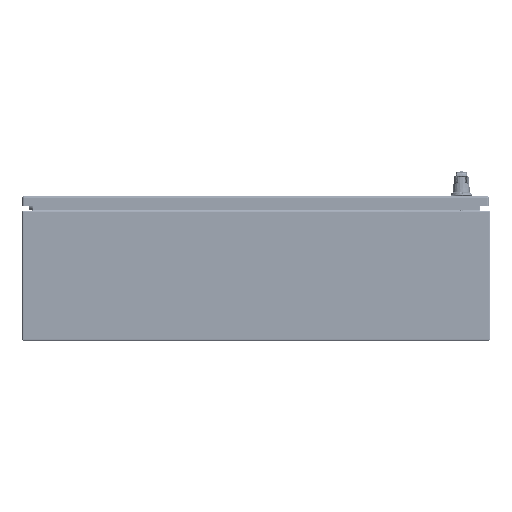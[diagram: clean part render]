
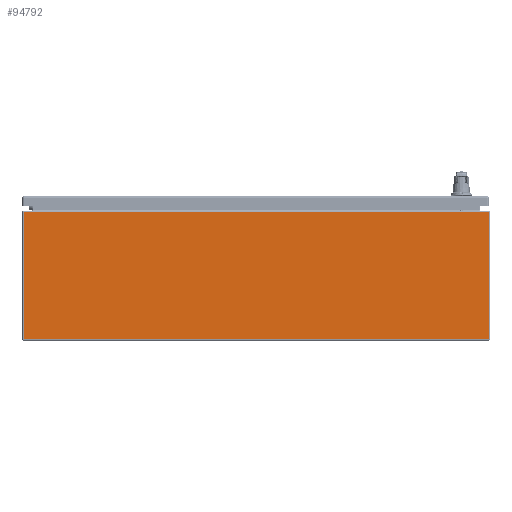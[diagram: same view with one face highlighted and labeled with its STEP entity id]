
A CAD part, front view. The second image highlights one B-rep face of the part: STEP entity #94792.
In plain terms, the highlighted planar face has unit normal (0, -1, 0).
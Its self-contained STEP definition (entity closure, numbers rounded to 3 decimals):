
#8402=LINE('',#134826,#14595);
#8405=LINE('',#134848,#14598);
#8406=LINE('',#134850,#14599);
#8407=LINE('',#134851,#14600);
#14595=VECTOR('',#110751,0.394);
#14598=VECTOR('',#110782,0.394);
#14599=VECTOR('',#110783,0.394);
#14600=VECTOR('',#110784,0.394);
#22349=FACE_OUTER_BOUND('',#28186,.T.);
#28186=EDGE_LOOP('',(#63362,#63363,#63364,#63365));
#38679=VERTEX_POINT('',#134815);
#38682=VERTEX_POINT('',#134825);
#38687=VERTEX_POINT('',#134847);
#38688=VERTEX_POINT('',#134849);
#48245=EDGE_CURVE('',#38679,#38682,#8402,.T.);
#48256=EDGE_CURVE('',#38687,#38679,#8405,.T.);
#48257=EDGE_CURVE('',#38687,#38688,#8406,.T.);
#48258=EDGE_CURVE('',#38682,#38688,#8407,.T.);
#63362=ORIENTED_EDGE('',*,*,#48245,.F.);
#63363=ORIENTED_EDGE('',*,*,#48256,.F.);
#63364=ORIENTED_EDGE('',*,*,#48257,.T.);
#63365=ORIENTED_EDGE('',*,*,#48258,.F.);
#92876=PLANE('',#101741);
#94792=ADVANCED_FACE('',(#22349),#92876,.T.);
#101741=AXIS2_PLACEMENT_3D('',#134846,#110780,#110781);
#110751=DIRECTION('',(1.,0.,0.));
#110780=DIRECTION('center_axis',(0.,-1.,0.));
#110781=DIRECTION('ref_axis',(-1.,0.,0.));
#110782=DIRECTION('',(0.,0.,1.));
#110783=DIRECTION('',(1.,0.,0.));
#110784=DIRECTION('',(0.,0.,-1.));
#134815=CARTESIAN_POINT('',(-17.901,-21.,9.901));
#134825=CARTESIAN_POINT('',(17.901,-21.,9.901));
#134826=CARTESIAN_POINT('',(0.025,-21.,9.901));
#134846=CARTESIAN_POINT('Origin',(18.,-21.,10.));
#134847=CARTESIAN_POINT('',(-17.901,-21.,0.099));
#134848=CARTESIAN_POINT('',(-17.901,-21.,5.));
#134849=CARTESIAN_POINT('',(17.901,-21.,0.099));
#134850=CARTESIAN_POINT('',(-8.951,-21.,0.099));
#134851=CARTESIAN_POINT('',(17.901,-21.,5.));
